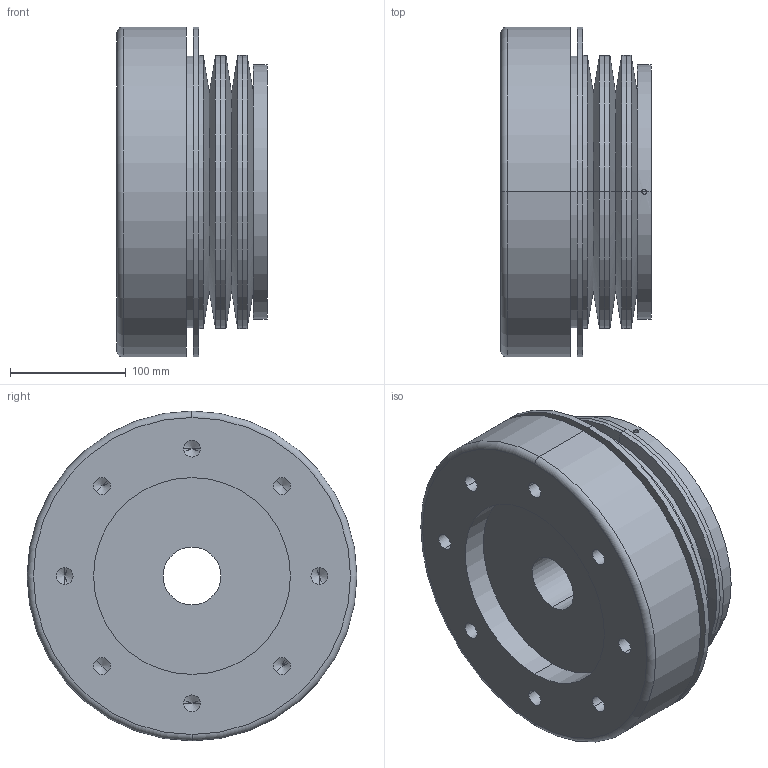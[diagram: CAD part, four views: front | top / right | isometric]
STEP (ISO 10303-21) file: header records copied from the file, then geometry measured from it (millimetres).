
FILE_DESCRIPTION (( 'STEP AP203' ), '1' );
FILE_NAME ('ST18C-380B.STEP', '2009-09-30T17:47:47', ( 'USER' ), ( 'HOME' ), 'SwSTEP 2.0', 'SolidWorks 2007', '' );
FILE_SCHEMA (( 'CONFIG_CONTROL_DESIGN' ));
Length unit declared in the file: millimetre
Products named in the file (1): ST18C-380B
Bounding box: 130 x 285 x 285 mm (x, y, z)
Volume: 5599010.6 mm3; surface area: 584213.4 mm2
Topology: 7 solids, 7 shells, 102 faces, 230 edges, 126 vertices
Faces by surface type: cylinder 56, cone 36, plane 8, torus 2
Entity records: 3019 total; most frequent: CARTESIAN_POINT 679, DIRECTION 516, ORIENTED_EDGE 428, EDGE_CURVE 214, AXIS2_PLACEMENT_3D 211, VERTEX_POINT 126, EDGE_LOOP 120, CIRCLE 108
